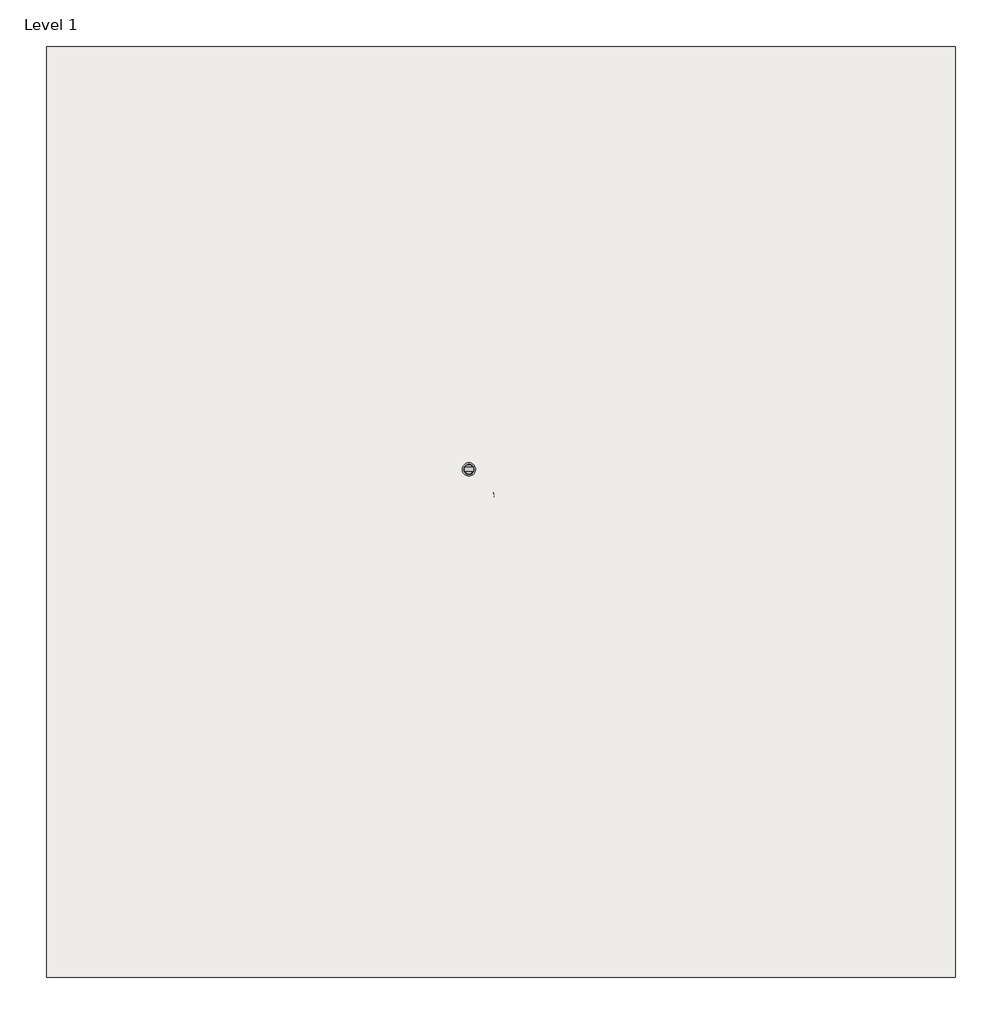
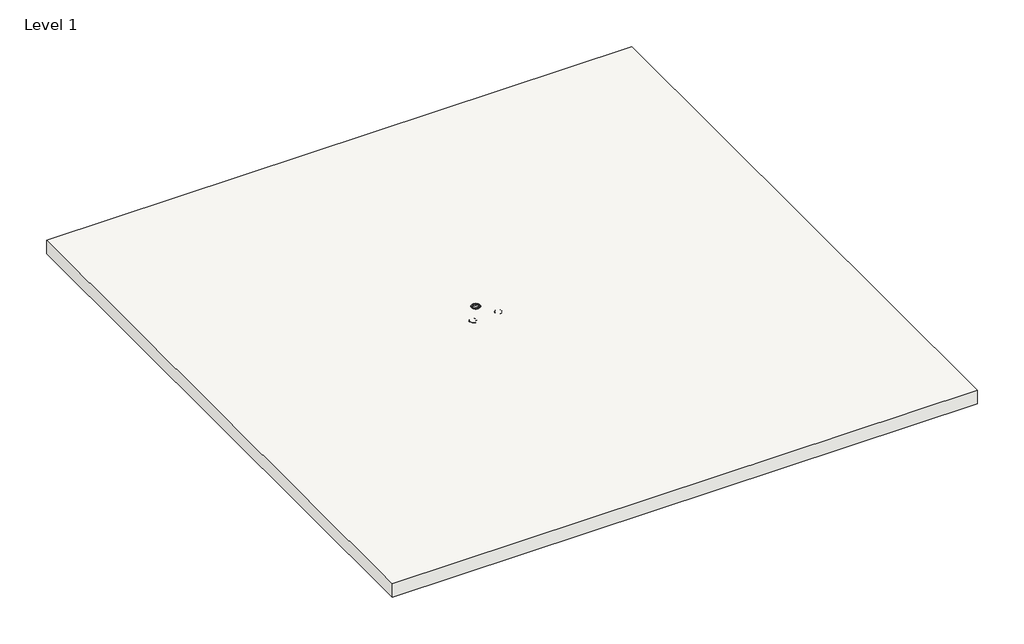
# One storey: 3 proxies, 1 slab.
"""IFC4 building model written with IfcOpenShell, lengths in millimetres."""

from ifc_helpers import new_model, si_unit, frame, origin, place, context, project, spatial, polyline, circle_curve, transform, mapped, element, save
from ifc_brep_helpers import plane_surface, revolved_surface, advanced_brep
from components import flush_black_51cfdbfb, surface_brass_28cbbe57, surface_bronze_d7694e16

model = new_model("IFC4")

# Units and contexts
model_context = context("Model", 3, world=origin())
ifc_project = project(units=[si_unit("LENGTHUNIT", "METRE", prefix="MILLI")], contexts=[model_context])

# Site, building, storey
site = spatial("IfcSite", under=ifc_project)
building = spatial("IfcBuilding", under=site)
storey = spatial("IfcBuildingStorey", under=building, Name="Level 1", Elevation=0.0)

# Proxies
placement = place(None, origin())
flush_black_shape = flush_black_51cfdbfb(model_context)
element("IfcBuildingElementProxy", 1, Name="Poke_Thru-Evolution_6AT_Series-Wiremold-Prewired : Flush-Black", ObjectType="Poke_Thru-Evolution_6AT_Series-Wiremold-Prewired : Flush-Black", at=placement, inside=storey, context=model_context, shape_type="MappedRepresentation", body=[
    mapped(flush_black_shape, transform((-7723.7094825, -4729.8788967, 0.0), x_axis=(-1.0, 0.0, 0.0), y_axis=(0.0, -1.0, 0.0), z_axis=(0.0, 0.0, 1.0))),
])
surface_brass_shape = surface_brass_28cbbe57(model_context)
element("IfcBuildingElementProxy", 2, Name="Poke_Thru-Evolution_6AT_Series-Wiremold-Prewired : Surface-Brass", ObjectType="Poke_Thru-Evolution_6AT_Series-Wiremold-Prewired : Surface-Brass", at=placement, inside=storey, context=model_context, shape_type="MappedRepresentation", body=[
    mapped(surface_brass_shape, transform((-7452.8915083, -4357.2766501, 0.0), x_axis=(0.0, -1.0, 0.0), y_axis=(1.0, 0.0, 0.0), z_axis=(0.0, 0.0, 1.0))),
])
surface_bronze_shape = surface_bronze_d7694e16(model_context)
element("IfcBuildingElementProxy", 3, Name="Poke_Thru-Evolution_6AT_Series-Wiremold-Prewired : Surface-Bronze", ObjectType="Poke_Thru-Evolution_6AT_Series-Wiremold-Prewired : Surface-Bronze", at=placement, inside=storey, context=model_context, shape_type="MappedRepresentation", body=[
    mapped(surface_bronze_shape, transform((-7175.0134494, -4725.3721887, 0.0), x_axis=(1.0, 0.0, 0.0), y_axis=(0.0, 1.0, 0.0), z_axis=(0.0, 0.0, 1.0))),
])

# Slab
element("IfcSlab", 4, ObjectType="Generic - 12\"", at=placement, inside=storey, context=model_context, shape_type="AdvancedBrep", body=[
    advanced_brep(
    [(-684.3512413, 1527.3905092, -304.8), (-684.3512413, -11426.6094908, -304.8), (-13333.5512413, -11426.6094908, -304.8), (-13333.5512413, 1527.3905092, -304.8), (-684.3512413, -11426.6094908, 0.0), (-684.3512413, 1527.3905092, 0.0), (-13333.5512413, 1527.3905092, 0.0), (-13333.5512413, -11426.6094908, 0.0), (-7452.8915083, -4449.3516501, 0.0), (-7452.8915083, -4265.2016501, 0.0), (-7452.8915083, -4286.4411184, -15.875), (-7452.8915083, -4428.1121817, -15.875), (-7452.8915083, -4286.4411184, -3.175), (-7452.8915083, -4428.1121817, -3.175), (-7452.8915083, -4265.2016501, -3.175), (-7452.8915083, -4449.3516501, -3.175)],
    [
        (0, 1),
        (1, 2),
        (2, 3),
        (3, 0),
        (4, 5),
        (5, 6),
        (6, 7),
        (7, 4),
        (8, 9, circle_curve(frame((-7452.8915083, -4357.2766501, 0.0), z_axis=(0.0, 0.0, -1.0), x_axis=(0.0, -1.0, 0.0)), 92.075)),
        (9, 8, circle_curve(frame((-7452.8915083, -4357.2766501, 0.0), z_axis=(0.0, 0.0, -1.0), x_axis=(0.0, -1.0, 0.0)), 92.075)),
        (0, 5),
        (4, 1),
        (7, 2),
        (6, 3),
        (10, 11, circle_curve(frame((-7452.8915083, -4357.2766501, -15.875), z_axis=(0.0, 0.0, 1.0), x_axis=(0.0, -1.0, 0.0)), 70.8355317)),
        (11, 10, circle_curve(frame((-7452.8915083, -4357.2766501, -15.875), z_axis=(0.0, 0.0, 1.0), x_axis=(0.0, -1.0, 0.0)), 70.8355317)),
        (10, 12),
        (12, 13, circle_curve(frame((-7452.8915083, -4357.2766501, -3.175), z_axis=(0.0, 0.0, 1.0), x_axis=(0.0, -1.0, 0.0)), 70.8355317)),
        (13, 11),
        (13, 12, circle_curve(frame((-7452.8915083, -4357.2766501, -3.175), z_axis=(0.0, 0.0, 1.0), x_axis=(0.0, -1.0, 0.0)), 70.8355317)),
        (14, 15, circle_curve(frame((-7452.8915083, -4357.2766501, -3.175), z_axis=(0.0, 0.0, 1.0), x_axis=(0.0, -1.0, 0.0)), 92.075)),
        (15, 14, circle_curve(frame((-7452.8915083, -4357.2766501, -3.175), z_axis=(0.0, 0.0, 1.0), x_axis=(0.0, -1.0, 0.0)), 92.075)),
        (14, 9),
        (8, 15),
    ],
    [
        plane_surface(frame((-684.3512413, 1527.3905092, -304.8), z_axis=(0.0, 0.0, -1.0), x_axis=(0.0, -1.0, 0.0))),
        plane_surface(frame((-684.3512413, 1527.3905092, 0.0), z_axis=(0.0, 0.0, 1.0), x_axis=(0.0, 1.0, 0.0))),
        plane_surface(frame((-684.3512413, 1527.3905092, -304.8), z_axis=(1.0, 0.0, 0.0), x_axis=(0.0, 0.0, 1.0))),
        plane_surface(frame((-684.3512413, -11426.6094908, -304.8), z_axis=(0.0, -1.0, 0.0), x_axis=(0.0, 0.0, 1.0))),
        plane_surface(frame((-13333.5512413, -11426.6094908, -304.8), z_axis=(-1.0, 0.0, 0.0), x_axis=(0.0, 0.0, 1.0))),
        plane_surface(frame((-13333.5512413, 1527.3905092, -304.8), z_axis=(0.0, 1.0, 0.0), x_axis=(0.0, 0.0, 1.0))),
        plane_surface(frame((-7452.8915083, -4428.1121817, -15.875), z_axis=(0.0, 0.0, 1.0), x_axis=(-1.0, 0.0, 0.0))),
        revolved_surface(polyline([(-7452.8915083, -4428.112181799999, -3.1750000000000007), (-7452.8915083, -4428.112181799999, -15.875)]), (-7452.8915083, -4357.2766501, -15.875), (0.0, 0.0, 1.0)),
        plane_surface(frame((-7452.8915083, -4449.3516501, -3.175), z_axis=(0.0, 0.0, 1.0), x_axis=(-1.0, 0.0, 0.0))),
        revolved_surface(polyline([(-7452.8915083, -4449.3516500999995, 0.0), (-7452.8915083, -4449.3516500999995, -3.175)]), (-7452.8915083, -4357.2766501, -3.175), (0.0, 0.0, 1.0)),
    ],
    [
        (0, [[1, 2, 3, 4]]),
        (1, [[5, 6, 7, 8], [9, 10]]),
        (2, [[-1, 11, -5, 12]]),
        (3, [[-2, -12, -8, 13]]),
        (4, [[-3, -13, -7, 14]]),
        (5, [[-4, -14, -6, -11]]),
        (6, [[15, 16]]),
        (7, [[-15, 17, 18, 19]]),
        (7, [[-16, -19, 20, -17]]),
        (8, [[21, 22], [-18, -20]]),
        (9, [[-21, 23, -9, 24]]),
        (9, [[-22, -24, -10, -23]]),
    ],
),
])

save(model, "model.ifc")
